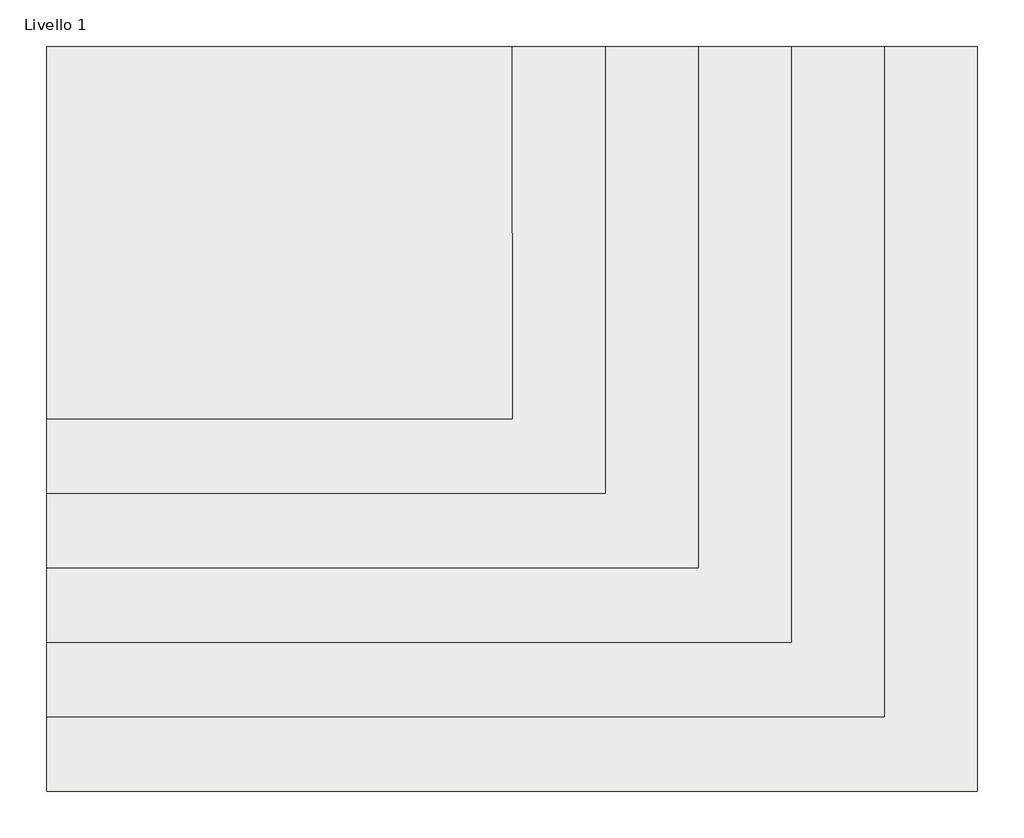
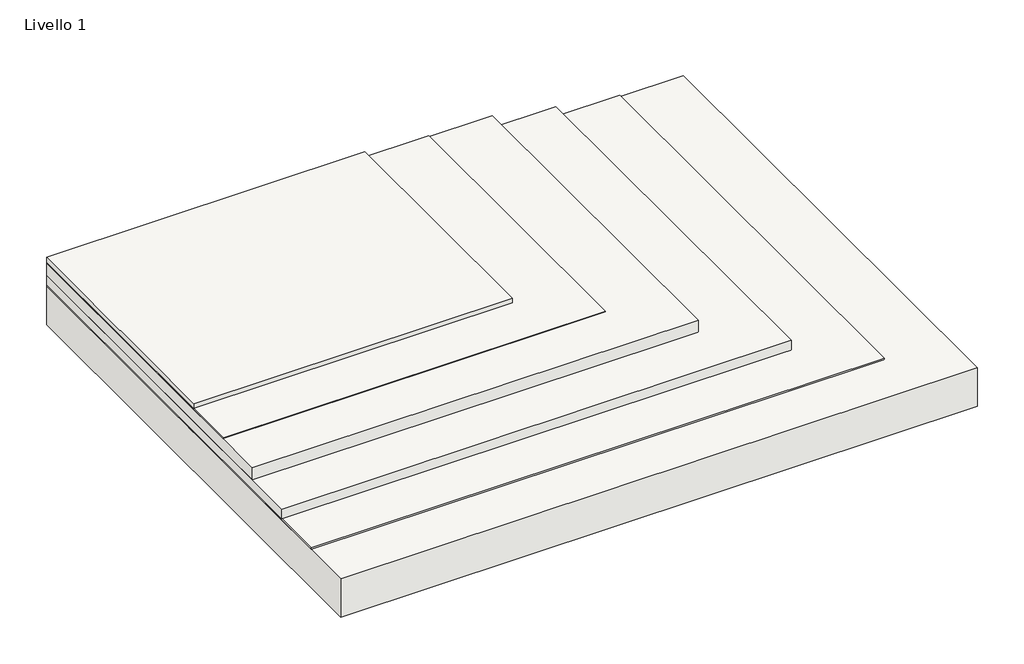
# One storey: 1 slab.
"""IFC4 building model written with IfcOpenShell, lengths in millimetres."""

from ifc_helpers import new_model, si_unit, frame, origin, place, context, project, spatial, polyline, outline, extrude, element, save

model = new_model("IFC4")

# Units and contexts
model_context = context("Model", 3, world=origin())
ifc_project = project(units=[si_unit("LENGTHUNIT", "METRE", prefix="MILLI")], contexts=[model_context])

# Site, building, storey
site = spatial("IfcSite", under=ifc_project)
building = spatial("IfcBuilding", under=site)
storey = spatial("IfcBuildingStorey", under=building, Name="Livello 1", Elevation=0.0)

# Slab
placement = place(None, origin())
element("IfcSlab", 1, ObjectType="MAPEI - Sistema para o assentamento de pedra natural sobre betonilha radiante", at=placement, inside=storey, context=model_context, shape_type="SweptSolid", body=[
    extrude(outline(polyline([(1457.7963918, 1184.9122843), (207.7963918, 1184.9122843), (207.7963918, 2184.9122843), (1457.7963918, 2184.9122843), (1457.7963918, 1184.9122843)])), frame((0.0, 0.0, -20.0), z_axis=(0.0, 0.0, 1.0), x_axis=(1.0, 0.0, 0.0)), (0.0, 0.0, 1.0), 20.0),
    extrude(outline(polyline([(1707.7963918, 984.9122843), (207.7963918, 984.9122843), (207.7963918, 2184.9122843), (1707.7963918, 2184.9122843), (1707.7963918, 984.9122843)])), frame((0.0, 0.0, -24.0), z_axis=(0.0, 0.0, 1.0), x_axis=(1.0, 0.0, 0.0)), (0.0, 0.0, 1.0), 4.0),
    extrude(outline(polyline([(1957.7963918, 784.9122843), (207.7963918, 784.9122843), (207.7963918, 2184.9122843), (1957.7963918, 2184.9122843), (1957.7963918, 784.9122843)])), frame((0.0, 0.0, -74.0), z_axis=(0.0, 0.0, 1.0), x_axis=(1.0, 0.0, 0.0)), (0.0, 0.0, 1.0), 50.0),
    extrude(outline(polyline([(2207.7963918, 584.9122843), (207.7963918, 584.9122843), (207.7963918, 2184.9122843), (2207.7963918, 2184.9122843), (2207.7963918, 584.9122843)])), frame((0.0, 0.0, -114.3), z_axis=(0.0, 0.0, 1.0), x_axis=(1.0, 0.0, 0.0)), (0.0, 0.0, 1.0), 40.3),
    extrude(outline(polyline([(2457.7963918, 384.9122843), (207.7963918, 384.9122843), (207.7963918, 2184.9122843), (2457.7963918, 2184.9122843), (2457.7963918, 384.9122843)])), frame((0.0, 0.0, -120.3), z_axis=(0.0, 0.0, 1.0), x_axis=(1.0, 0.0, 0.0)), (0.0, 0.0, 1.0), 6.0),
    extrude(outline(polyline([(2707.7963918, 184.9122843), (207.7963918, 184.9122843), (207.7963918, 2184.9122843), (2707.7963918, 2184.9122843), (2707.7963918, 184.9122843)])), frame((0.0, 0.0, -280.3), z_axis=(0.0, 0.0, 1.0), x_axis=(1.0, 0.0, 0.0)), (0.0, 0.0, 1.0), 160.0),
])

save(model, "model.ifc")
